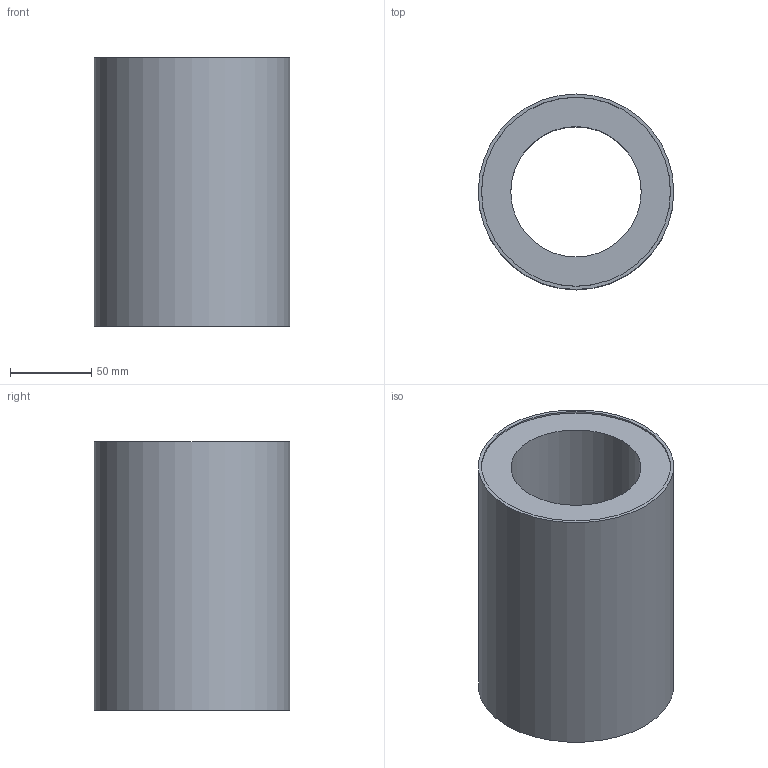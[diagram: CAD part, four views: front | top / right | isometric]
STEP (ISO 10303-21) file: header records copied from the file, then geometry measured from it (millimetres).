
FILE_DESCRIPTION(/* description */ (''),/* implementation_level */ '2;1');
FILE_NAME(/* name */ 'W:\WEBOVKY\Knecht\LME-UU\LME-80-UU\LME-80-UU.stp',/* time_stamp */ '2021-03-08T12:10:32+01:00',/* author */ ('mkorenek'),/* organization */ (''),/* preprocessor_version */ 'ST-DEVELOPER v18.1',/* originating_system */ 'Autodesk Inventor 2021',/* authorisation */ '');
FILE_SCHEMA (('AUTOMOTIVE_DESIGN { 1 0 10303 214 3 1 1 }'));
Length unit declared in the file: millimetre
Products named in the file (3): LME-80-UU; vnějšek pouzdra; vnitřek pouzdra
Assembly tree (2 placements, depth 2):
  LME-80-UU
    vnějšek pouzdra
    vnitřek pouzdra
Bounding box: 120 x 120 x 165 mm (x, y, z)
Volume: 1022673.3 mm3; surface area: 235180 mm2
Topology: 2 solids, 2 shells, 8 faces, 16 edges, 12 vertices
Faces by surface type: plane 4, cylinder 4
Full cylindrical faces by diameter (mm): 80 x1, 115.9 x1, 116 x1, 120 x1
Entity records: 359 total; most frequent: DIRECTION 54, CARTESIAN_POINT 41, ORIENTED_EDGE 32, AXIS2_PLACEMENT_3D 25, EDGE_CURVE 16, EDGE_LOOP 12, CIRCLE 12, VERTEX_POINT 12
